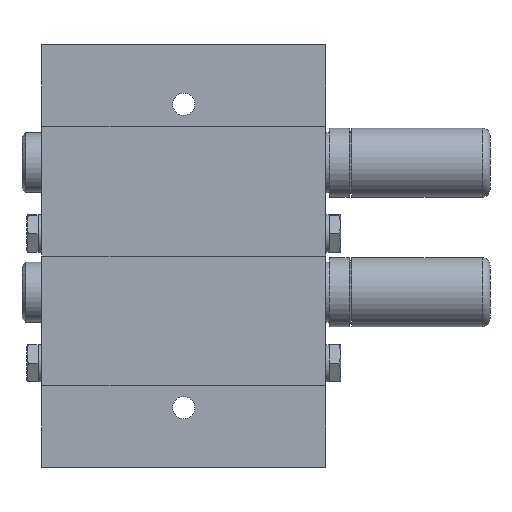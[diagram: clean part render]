
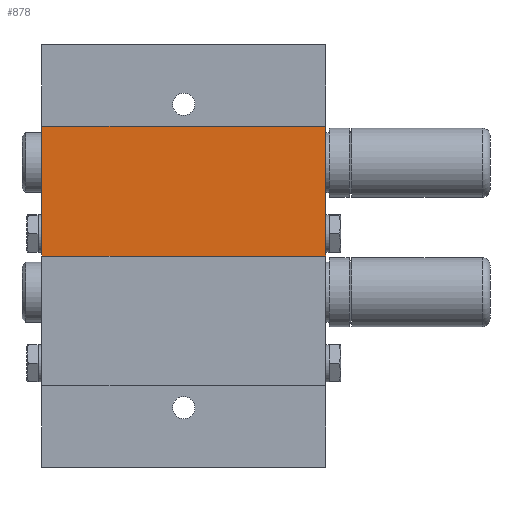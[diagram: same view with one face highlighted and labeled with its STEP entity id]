
A CAD part, left-side view. The second image highlights one B-rep face of the part: STEP entity #878.
In plain terms, the highlighted planar face has unit normal (-1, 0, 0).
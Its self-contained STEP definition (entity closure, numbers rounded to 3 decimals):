
#811=CARTESIAN_POINT('',(-17.5,38.0,-17.35));
#812=VERTEX_POINT('',#811);
#819=CARTESIAN_POINT('',(-17.5,38.0,17.35));
#820=VERTEX_POINT('',#819);
#821=CARTESIAN_POINT('',(-17.5,38.0,17.35));
#822=DIRECTION('',(0.0,0.0,-1.0));
#823=VECTOR('',#822,34.7);
#824=LINE('',#821,#823);
#825=EDGE_CURVE('',#820,#812,#824,.T.);
#848=CARTESIAN_POINT('',(-17.5,38.0,17.35));
#849=DIRECTION('',(-1.0,0.0,0.0));
#850=DIRECTION('',(0.0,0.0,1.0));
#851=AXIS2_PLACEMENT_3D('',#848,#849,#850);
#852=PLANE('',#851);
#853=CARTESIAN_POINT('',(-17.5,-38.0,-17.35));
#854=VERTEX_POINT('',#853);
#855=CARTESIAN_POINT('',(-17.5,38.0,-17.35));
#856=DIRECTION('',(0.0,-1.0,0.0));
#857=VECTOR('',#856,76.0);
#858=LINE('',#855,#857);
#859=EDGE_CURVE('',#812,#854,#858,.T.);
#860=ORIENTED_EDGE('',*,*,#859,.T.);
#861=CARTESIAN_POINT('',(-17.5,-38.0,17.35));
#862=VERTEX_POINT('',#861);
#863=CARTESIAN_POINT('',(-17.5,-38.0,17.35));
#864=DIRECTION('',(0.0,0.0,-1.0));
#865=VECTOR('',#864,34.7);
#866=LINE('',#863,#865);
#867=EDGE_CURVE('',#862,#854,#866,.T.);
#868=ORIENTED_EDGE('',*,*,#867,.F.);
#869=CARTESIAN_POINT('',(-17.5,38.0,17.35));
#870=DIRECTION('',(0.0,-1.0,0.0));
#871=VECTOR('',#870,76.0);
#872=LINE('',#869,#871);
#873=EDGE_CURVE('',#820,#862,#872,.T.);
#874=ORIENTED_EDGE('',*,*,#873,.F.);
#875=ORIENTED_EDGE('',*,*,#825,.T.);
#876=EDGE_LOOP('',(#860,#868,#874,#875));
#877=FACE_OUTER_BOUND('',#876,.T.);
#878=ADVANCED_FACE('',(#877),#852,.T.);
